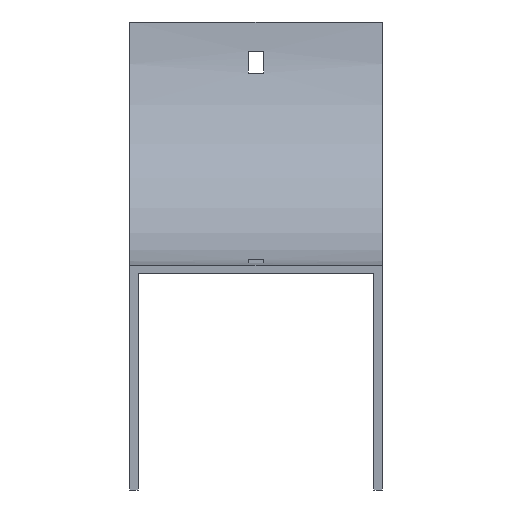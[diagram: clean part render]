
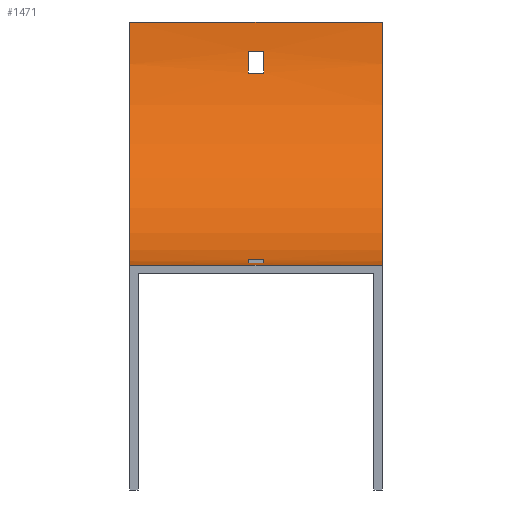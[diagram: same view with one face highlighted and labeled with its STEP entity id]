
A CAD part, front view. The second image highlights one B-rep face of the part: STEP entity #1471.
In plain terms, the highlighted cylindrical face has radius 100 mm (diameter 200 mm), a partial arc.
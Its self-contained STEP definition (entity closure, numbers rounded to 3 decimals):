
#14 = CARTESIAN_POINT ( 'NONE',  ( 3.25, -88., -99.277 ) ) ;
#121 = VERTEX_POINT ( 'NONE', #1673 ) ;
#131 = DIRECTION ( 'NONE',  ( 0., 0., 1. ) ) ;
#146 = ORIENTED_EDGE ( 'NONE', *, *, #1588, .T. ) ;
#180 = ORIENTED_EDGE ( 'NONE', *, *, #456, .T. ) ;
#190 = CARTESIAN_POINT ( 'NONE',  ( 52., -79., -97.77 ) ) ;
#210 = CARTESIAN_POINT ( 'NONE',  ( -3.25, -100., 0. ) ) ;
#267 = AXIS2_PLACEMENT_3D ( 'NONE', #1569, #1191, #387 ) ;
#270 = AXIS2_PLACEMENT_3D ( 'NONE', #210, #1646, #872 ) ;
#274 = EDGE_CURVE ( 'NONE', #1647, #121, #894, .T. ) ;
#293 = CIRCLE ( 'NONE', #267, 100. ) ;
#309 = LINE ( 'NONE', #1617, #866 ) ;
#310 = EDGE_CURVE ( 'NONE', #556, #1691, #440, .T. ) ;
#315 = CARTESIAN_POINT ( 'NONE',  ( -52., -100., -100. ) ) ;
#347 = VERTEX_POINT ( 'NONE', #696 ) ;
#357 = DIRECTION ( 'NONE',  ( -1., 0., 0. ) ) ;
#387 = DIRECTION ( 'NONE',  ( 0., 0., 1. ) ) ;
#389 = DIRECTION ( 'NONE',  ( 0., 0., 1. ) ) ;
#404 = VECTOR ( 'NONE', #535, 1000. ) ;
#405 = ORIENTED_EDGE ( 'NONE', *, *, #642, .F. ) ;
#419 = CARTESIAN_POINT ( 'NONE',  ( 52., -0.723, -12. ) ) ;
#429 = ORIENTED_EDGE ( 'NONE', *, *, #1487, .F. ) ;
#440 = CIRCLE ( 'NONE', #1655, 100. ) ;
#448 = CARTESIAN_POINT ( 'NONE',  ( 52., 0., 0. ) ) ;
#449 = LINE ( 'NONE', #840, #655 ) ;
#456 = EDGE_CURVE ( 'NONE', #1636, #347, #1116, .T. ) ;
#535 = DIRECTION ( 'NONE',  ( 1., 0., 0. ) ) ;
#556 = VERTEX_POINT ( 'NONE', #1670 ) ;
#564 = DIRECTION ( 'NONE',  ( -1., 0., 0. ) ) ;
#570 = AXIS2_PLACEMENT_3D ( 'NONE', #771, #903, #131 ) ;
#574 = DIRECTION ( 'NONE',  ( -1., 0., 0. ) ) ;
#587 = EDGE_CURVE ( 'NONE', #1482, #556, #813, .T. ) ;
#597 = FACE_BOUND ( 'NONE', #968, .T. ) ;
#642 = EDGE_CURVE ( 'NONE', #121, #826, #1209, .T. ) ;
#655 = VECTOR ( 'NONE', #1353, 1000. ) ;
#662 = CARTESIAN_POINT ( 'NONE',  ( -3.25, -79., -97.77 ) ) ;
#663 = ORIENTED_EDGE ( 'NONE', *, *, #310, .T. ) ;
#670 = VERTEX_POINT ( 'NONE', #315 ) ;
#690 = LINE ( 'NONE', #1197, #1268 ) ;
#696 = CARTESIAN_POINT ( 'NONE',  ( -52., 0., 0. ) ) ;
#771 = CARTESIAN_POINT ( 'NONE',  ( 52., -100., 0. ) ) ;
#813 = LINE ( 'NONE', #419, #404 ) ;
#814 = ORIENTED_EDGE ( 'NONE', *, *, #1118, .F. ) ;
#820 = VECTOR ( 'NONE', #1365, 1000. ) ;
#821 = ORIENTED_EDGE ( 'NONE', *, *, #1366, .T. ) ;
#826 = VERTEX_POINT ( 'NONE', #662 ) ;
#831 = DIRECTION ( 'NONE',  ( 0., -1., 0. ) ) ;
#840 = CARTESIAN_POINT ( 'NONE',  ( 52., -88., -99.277 ) ) ;
#856 = CARTESIAN_POINT ( 'NONE',  ( 52., -100., 0. ) ) ;
#861 = EDGE_CURVE ( 'NONE', #1027, #1482, #293, .T. ) ;
#866 = VECTOR ( 'NONE', #564, 1000. ) ;
#872 = DIRECTION ( 'NONE',  ( 0., 1., 0. ) ) ;
#874 = CARTESIAN_POINT ( 'NONE',  ( -3.25, -88., -99.277 ) ) ;
#892 = EDGE_CURVE ( 'NONE', #1636, #1081, #1299, .T. ) ;
#894 = CIRCLE ( 'NONE', #1009, 100. ) ;
#903 = DIRECTION ( 'NONE',  ( -1., 0., 0. ) ) ;
#912 = CARTESIAN_POINT ( 'NONE',  ( 52., 0., 0. ) ) ;
#920 = DIRECTION ( 'NONE',  ( 1., 0., 0. ) ) ;
#946 = DIRECTION ( 'NONE',  ( 0., 0., -1. ) ) ;
#948 = AXIS2_PLACEMENT_3D ( 'NONE', #1305, #1169, #389 ) ;
#968 = EDGE_LOOP ( 'NONE', ( #429, #405, #1133, #1664 ) ) ;
#1009 = AXIS2_PLACEMENT_3D ( 'NONE', #1469, #920, #831 ) ;
#1027 = VERTEX_POINT ( 'NONE', #1280 ) ;
#1033 = CIRCLE ( 'NONE', #270, 100. ) ;
#1081 = VERTEX_POINT ( 'NONE', #1289 ) ;
#1116 = LINE ( 'NONE', #448, #820 ) ;
#1117 = FACE_BOUND ( 'NONE', #1577, .T. ) ;
#1118 = EDGE_CURVE ( 'NONE', #1081, #670, #690, .T. ) ;
#1128 = FACE_OUTER_BOUND ( 'NONE', #1643, .T. ) ;
#1133 = ORIENTED_EDGE ( 'NONE', *, *, #274, .F. ) ;
#1169 = DIRECTION ( 'NONE',  ( -1., 0., 0. ) ) ;
#1181 = CARTESIAN_POINT ( 'NONE',  ( 3.25, -100., 0. ) ) ;
#1191 = DIRECTION ( 'NONE',  ( 1., 0., 0. ) ) ;
#1197 = CARTESIAN_POINT ( 'NONE',  ( 52., -100., -100. ) ) ;
#1209 = LINE ( 'NONE', #190, #1329 ) ;
#1215 = AXIS2_PLACEMENT_3D ( 'NONE', #856, #357, #1523 ) ;
#1268 = VECTOR ( 'NONE', #1301, 1000. ) ;
#1280 = CARTESIAN_POINT ( 'NONE',  ( -3.25, -2.23, -21. ) ) ;
#1289 = CARTESIAN_POINT ( 'NONE',  ( 52., -100., -100. ) ) ;
#1299 = CIRCLE ( 'NONE', #570, 100. ) ;
#1301 = DIRECTION ( 'NONE',  ( -1., 0., 0. ) ) ;
#1302 = VERTEX_POINT ( 'NONE', #874 ) ;
#1305 = CARTESIAN_POINT ( 'NONE',  ( -52., -100., 0. ) ) ;
#1307 = ORIENTED_EDGE ( 'NONE', *, *, #587, .T. ) ;
#1329 = VECTOR ( 'NONE', #574, 1000. ) ;
#1330 = ORIENTED_EDGE ( 'NONE', *, *, #892, .F. ) ;
#1336 = DIRECTION ( 'NONE',  ( -1., 0., 0. ) ) ;
#1337 = EDGE_CURVE ( 'NONE', #1302, #1647, #449, .T. ) ;
#1353 = DIRECTION ( 'NONE',  ( 1., 0., 0. ) ) ;
#1365 = DIRECTION ( 'NONE',  ( -1., 0., 0. ) ) ;
#1366 = EDGE_CURVE ( 'NONE', #1691, #1027, #309, .T. ) ;
#1367 = CARTESIAN_POINT ( 'NONE',  ( -3.25, -0.723, -12. ) ) ;
#1457 = CARTESIAN_POINT ( 'NONE',  ( 3.25, -2.23, -21. ) ) ;
#1469 = CARTESIAN_POINT ( 'NONE',  ( 3.25, -100., 0. ) ) ;
#1471 = ADVANCED_FACE ( 'NONE', ( #1128, #1117, #597 ), #1654, .F. ) ;
#1482 = VERTEX_POINT ( 'NONE', #1367 ) ;
#1487 = EDGE_CURVE ( 'NONE', #826, #1302, #1033, .T. ) ;
#1492 = CIRCLE ( 'NONE', #948, 100. ) ;
#1523 = DIRECTION ( 'NONE',  ( 0., 0., 1. ) ) ;
#1532 = ORIENTED_EDGE ( 'NONE', *, *, #861, .T. ) ;
#1569 = CARTESIAN_POINT ( 'NONE',  ( -3.25, -100., 0. ) ) ;
#1577 = EDGE_LOOP ( 'NONE', ( #821, #1532, #1307, #663 ) ) ;
#1588 = EDGE_CURVE ( 'NONE', #347, #670, #1492, .T. ) ;
#1617 = CARTESIAN_POINT ( 'NONE',  ( 52., -2.23, -21. ) ) ;
#1636 = VERTEX_POINT ( 'NONE', #912 ) ;
#1643 = EDGE_LOOP ( 'NONE', ( #146, #814, #1330, #180 ) ) ;
#1646 = DIRECTION ( 'NONE',  ( -1., 0., 0. ) ) ;
#1647 = VERTEX_POINT ( 'NONE', #14 ) ;
#1654 = CYLINDRICAL_SURFACE ( 'NONE', #1215, 100. ) ;
#1655 = AXIS2_PLACEMENT_3D ( 'NONE', #1181, #1336, #946 ) ;
#1664 = ORIENTED_EDGE ( 'NONE', *, *, #1337, .F. ) ;
#1670 = CARTESIAN_POINT ( 'NONE',  ( 3.25, -0.723, -12. ) ) ;
#1673 = CARTESIAN_POINT ( 'NONE',  ( 3.25, -79., -97.77 ) ) ;
#1691 = VERTEX_POINT ( 'NONE', #1457 ) ;
